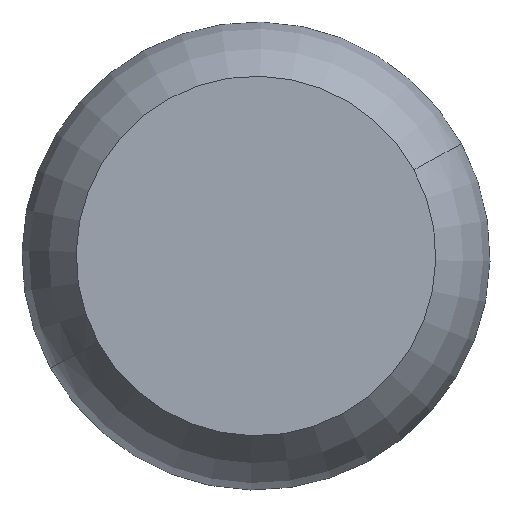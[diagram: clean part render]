
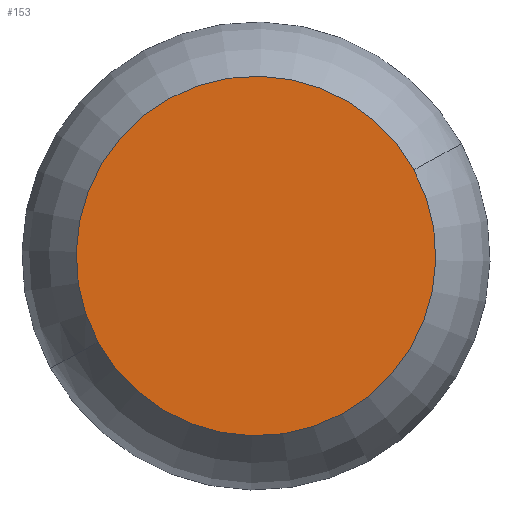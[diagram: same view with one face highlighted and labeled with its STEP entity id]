
A CAD part, front view. The second image highlights one B-rep face of the part: STEP entity #153.
In plain terms, the highlighted planar face has unit normal (0, -1, 0).
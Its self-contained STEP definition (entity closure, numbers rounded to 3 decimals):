
#66=CARTESIAN_POINT('Axis2P3D Location',(0.,0.,0.)) ;
#70=CARTESIAN_POINT('Vertex',(95.656,0.,52.257)) ;
#72=CARTESIAN_POINT('Vertex',(-95.656,0.,-52.257)) ;
#127=CARTESIAN_POINT('Axis2P3D Location',(0.,0.,0.)) ;
#144=CARTESIAN_POINT('Axis2P3D Location',(0.,0.,0.)) ;
#67=DIRECTION('Axis2P3D Direction',(0.,-1.,0.)) ;
#128=DIRECTION('Axis2P3D Direction',(0.,-1.,0.)) ;
#145=DIRECTION('Axis2P3D Direction',(0.,-1.,0.)) ;
#146=DIRECTION('Axis2P3D XDirection',(1.,0.,0.)) ;
#68=AXIS2_PLACEMENT_3D('Circle Axis2P3D',#66,#67,$) ;
#129=AXIS2_PLACEMENT_3D('Circle Axis2P3D',#127,#128,$) ;
#147=AXIS2_PLACEMENT_3D('Plane Axis2P3D',#144,#145,#146) ;
#150=ORIENTED_EDGE('',*,*,#74,.T.) ;
#151=ORIENTED_EDGE('',*,*,#131,.T.) ;
#153=ADVANCED_FACE('PartBody',(#152),#148,.T.) ;
#69=CIRCLE('generated circle',#68,109.) ;
#130=CIRCLE('generated circle',#129,109.) ;
#74=EDGE_CURVE('',#71,#73,#69,.T.) ;
#131=EDGE_CURVE('',#73,#71,#130,.T.) ;
#149=EDGE_LOOP('',(#150,#151)) ;
#152=FACE_OUTER_BOUND('',#149,.T.) ;
#148=PLANE('',#147) ;
#71=VERTEX_POINT('',#70) ;
#73=VERTEX_POINT('',#72) ;
